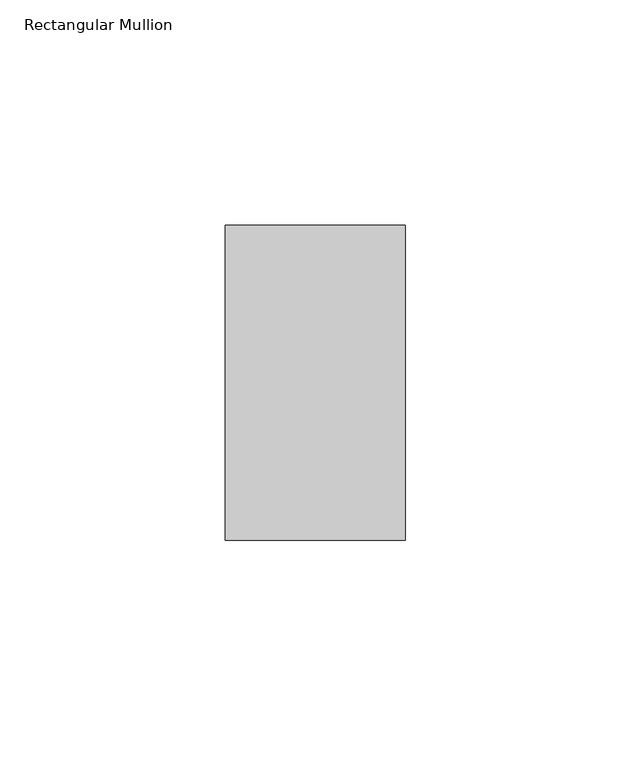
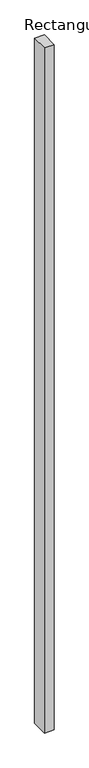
"""IFC4 building model written with IfcOpenShell, lengths in millimetres: member geometry, Rectangular Mullion : RSen_21_CWM_support profile - 40x70_gen_duco projects."""

import ifcopenshell
import ifcopenshell.guid

model = None  # the IFC model being written
_history = None  # IfcOwnerHistory: only IFC2X3 demands one
_inside = {}  # id of a spatial element -> (the spatial element, [elements in it])
_under = {}  # id of a project, library or spatial element -> (it, [spatial elements below it])
_declared = {}  # id of a project -> (the project, [libraries it declares])
_typed = {}  # id of a type object -> (the type object, [elements of that type])
_made_of = {}  # id of a material, layer set ... -> (it, [elements and type objects made of it])


def new_model(schema):
    """Start an empty IFC model of exactly this schema.

    Asked for "IFC4X3", IfcOpenShell would pick the latest addendum, in which some entities
    have other attributes; the version numbers below select the first issue.
    IFC2X3 requires an IfcOwnerHistory on every rooted entity: one is made here for all.
    """
    global model, _history
    if schema == "IFC4X3":
        model = ifcopenshell.file(schema_version=(4, 3, 0, 0))
    else:
        model = ifcopenshell.file(schema=schema)
    _inside.clear()
    _under.clear()
    _declared.clear()
    _typed.clear()
    _made_of.clear()
    _history = None
    if model.schema == "IFC2X3":
        org = make("IfcOrganization", Name="unknown")
        user = make(
            "IfcPersonAndOrganization",
            ThePerson=make("IfcPerson", FamilyName="unknown"),
            TheOrganization=org,
        )
        app = make(
            "IfcApplication",
            ApplicationDeveloper=org,
            Version="unknown",
            ApplicationFullName="unknown",
            ApplicationIdentifier="unknown",
        )
        _history = make(
            "IfcOwnerHistory",
            OwningUser=user,
            OwningApplication=app,
            ChangeAction="ADDED",
            CreationDate=0,
        )
    return model


def make(cls, **values):
    """One entity of the class cls with the attributes given. An attribute that is None is left unset."""
    return model.create_entity(
        cls, **{name: value for name, value in values.items() if value is not None}
    )


def rooted(cls, **values):
    """An entity with a GlobalId (a new one), such as an element, a storey or a relation."""
    return make(cls, GlobalId=ifcopenshell.guid.new(), OwnerHistory=_history, **values)


def si_unit(unit_type, name, prefix=None):
    """IfcSIUnit, for example si_unit("LENGTHUNIT", "METRE", prefix="MILLI")."""
    return make("IfcSIUnit", UnitType=unit_type, Prefix=prefix, Name=name)


def assignment(units):
    """IfcUnitAssignment: the units of a project."""
    return None if units is None else make("IfcUnitAssignment", Units=units)


def point(xyz):
    """IfcCartesianPoint."""
    return None if xyz is None else make("IfcCartesianPoint", Coordinates=xyz)


def direction(xyz):
    """IfcDirection."""
    return None if xyz is None else make("IfcDirection", DirectionRatios=xyz)


def frame(location, z_axis=None, x_axis=None):
    """IfcAxis2Placement3D, a coordinate frame: its origin and axes. An axis left out is left unset."""
    return make(
        "IfcAxis2Placement3D",
        Location=point(location),
        Axis=direction(z_axis),
        RefDirection=direction(x_axis),
    )


def origin():
    """The frame at (0, 0, 0) with its axes left unset."""
    return frame((0.0, 0.0, 0.0))


def place(relative_to, where):
    """IfcLocalPlacement: puts the frame where relative to a parent placement (None: the world)."""
    return make(
        "IfcLocalPlacement", PlacementRelTo=relative_to, RelativePlacement=where
    )


def context(
    kind, dimensions, precision=None, world=None, true_north=None, identifier=None
):
    """IfcGeometricRepresentationContext, for example the 3D "Model" context."""
    return make(
        "IfcGeometricRepresentationContext",
        ContextIdentifier=identifier,
        ContextType=kind,
        CoordinateSpaceDimension=dimensions,
        Precision=precision,
        WorldCoordinateSystem=world,
        TrueNorth=true_north,
    )


def project(units=None, contexts=None):
    """IfcProject with its units and contexts."""
    return rooted(
        "IfcProject",
        Name="project",
        RepresentationContexts=contexts,
        UnitsInContext=assignment(units),
    )


def spatial(cls, under=None, at=None, **own):
    """A site, building, storey or space (cls), placed at a placement, below another one or the project."""
    s = rooted(cls, ObjectPlacement=at, **own)
    if under is not None:
        _under.setdefault(under.id(), (under, []))[1].append(s)
    return s


def polyline(points):
    """IfcPolyline through the points."""
    return make("IfcPolyline", Points=[point(p) for p in points])


def outline(outer, holes=None, kind="AREA"):
    """IfcArbitraryClosedProfileDef: a profile drawn as a closed curve; with holes, ...WithVoids."""
    if holes is None:
        return make("IfcArbitraryClosedProfileDef", ProfileType=kind, OuterCurve=outer)
    return make(
        "IfcArbitraryProfileDefWithVoids",
        ProfileType=kind,
        OuterCurve=outer,
        InnerCurves=holes,
    )


def extrude(swept, where, along, depth):
    """IfcExtrudedAreaSolid: the profile swept, set in the frame where, extruded along a direction by depth."""
    return make(
        "IfcExtrudedAreaSolid",
        SweptArea=swept,
        Position=where,
        ExtrudedDirection=direction(along),
        Depth=depth,
    )


def shape(context_of_items, identifier, shape_type, items):
    """IfcShapeRepresentation: the items that make up one representation, for example the "Body"."""
    return make(
        "IfcShapeRepresentation",
        ContextOfItems=context_of_items,
        RepresentationIdentifier=identifier,
        RepresentationType=shape_type,
        Items=items,
    )


def source(mapping_origin, context_of_items, identifier, shape_type, items):
    """IfcRepresentationMap: a shape defined once, which mapped items show again and again."""
    return make(
        "IfcRepresentationMap",
        MappingOrigin=mapping_origin,
        MappedRepresentation=shape(context_of_items, identifier, shape_type, items),
    )


def transform(
    local_origin,
    x_axis=None,
    y_axis=None,
    z_axis=None,
    scale=None,
    scale2=None,
    scale3=None,
    uniform=True,
):
    """IfcCartesianTransformationOperator3D, or its non-uniform kind. x_axis, y_axis, z_axis: its Axis1, 2, 3."""
    if uniform:
        return make(
            "IfcCartesianTransformationOperator3D",
            Axis1=direction(x_axis),
            Axis2=direction(y_axis),
            LocalOrigin=point(local_origin),
            Scale=scale,
            Axis3=direction(z_axis),
        )
    return make(
        "IfcCartesianTransformationOperator3DnonUniform",
        Axis1=direction(x_axis),
        Axis2=direction(y_axis),
        LocalOrigin=point(local_origin),
        Scale=scale,
        Axis3=direction(z_axis),
        Scale2=scale2,
        Scale3=scale3,
    )


def mapped(mapping_source, mapping_target):
    """IfcMappedItem: shows the shape of a source again, moved by a transform."""
    return make(
        "IfcMappedItem", MappingSource=mapping_source, MappingTarget=mapping_target
    )


def made_of(thing, what):
    """Note that an element or type object is made of a material, layer set ...; save() writes the relation."""
    if what is not None:
        _made_of.setdefault(what.id(), (what, []))[1].append(thing)
    return thing


def element(
    cls,
    number,
    at=None,
    inside=None,
    cuts=None,
    type_object=None,
    material=None,
    context=None,
    identifier="Body",
    shape_type=None,
    held_by="IfcProductDefinitionShape",
    body=None,
    shapes=None,
    **own,
):
    """One element of the class cls, such as IfcWall. Its Tag is "e" and its number.

    at: its placement. inside: the storey or other place that contains it. cuts: it is an
    opening in that element (IfcRelVoidsElement). A single representation is given by context,
    identifier, shape_type and body (its items); several are given by shapes. held_by: the class
    of the entity that holds the representations. save() writes the other relations.
    """
    e = rooted(cls, Tag="e%d" % number, ObjectPlacement=at, **own)
    if body is not None:
        shapes = [shape(context, identifier, shape_type, body)]
    if shapes is not None:
        e.Representation = make(held_by, Representations=shapes)
    if inside is not None:
        _inside.setdefault(inside.id(), (inside, []))[1].append(e)
    if cuts is not None:
        rooted(
            "IfcRelVoidsElement", RelatingBuildingElement=cuts, RelatedOpeningElement=e
        )
    if type_object is not None:
        _typed.setdefault(type_object.id(), (type_object, []))[1].append(e)
    return made_of(e, material)


def aggregate(whole, parts):
    """IfcRelAggregates: a whole, such as a stair, and the parts it consists of."""
    return rooted("IfcRelAggregates", RelatingObject=whole, RelatedObjects=parts)


def save(model, path):
    """Write the relations noted so far, then the file.

    IfcRelAggregates (storeys below a building ...), IfcRelContainedInSpatialStructure (elements
    in a storey), IfcRelDefinesByType, IfcRelAssociatesMaterial and IfcRelDeclares: one each for
    every whole, place, type object, material and project.
    """
    for whole, parts in _under.values():
        aggregate(whole, parts)
    for where, things in _inside.values():
        rooted(
            "IfcRelContainedInSpatialStructure",
            RelatedElements=things,
            RelatingStructure=where,
        )
    for kind, things in _typed.values():
        rooted("IfcRelDefinesByType", RelatedObjects=things, RelatingType=kind)
    for what, things in _made_of.values():
        rooted("IfcRelAssociatesMaterial", RelatedObjects=things, RelatingMaterial=what)
    for by, libraries in _declared.values():
        rooted("IfcRelDeclares", RelatingContext=by, RelatedDefinitions=libraries)
    model.write(path)


def rectangular_mullion_49e1a669(model_context):
    return source(origin(), model_context, "Body", "SweptSolid", [
        extrude(outline(polyline([(20.0, 1.0), (20.0, -69.0), (-20.0, -69.0), (-20.0, 1.0), (20.0, 1.0)])), frame((0.0, 0.0, -3000.0), z_axis=(0.0, 0.0, 1.0), x_axis=(1.0, 0.0, 0.0)), (0.0, 0.0, 1.0), 3000.0),
    ])


if __name__ == "__main__":
    model = new_model("IFC4")
    model_context = context("Model", 3, world=origin())
    ifc_project = project(units=[si_unit("LENGTHUNIT", "METRE", prefix="MILLI")], contexts=[model_context])
    site = spatial("IfcSite", under=ifc_project)
    building = spatial("IfcBuilding", under=site)
    placement = place(None, origin())
    rectangular_mullion_shape = rectangular_mullion_49e1a669(model_context)
    element("IfcMember", 1, ObjectType="Rectangular Mullion : RSen_21_CWM_support profile - 40x70_gen_duco projects", at=placement, inside=building, context=model_context, shape_type="MappedRepresentation", body=[
        mapped(rectangular_mullion_shape, transform((0.0, 0.0, 0.0), x_axis=(1.0, 0.0, 0.0), y_axis=(0.0, 1.0, 0.0), z_axis=(0.0, 0.0, 1.0))),
    ])
    save(model, "model.ifc")
